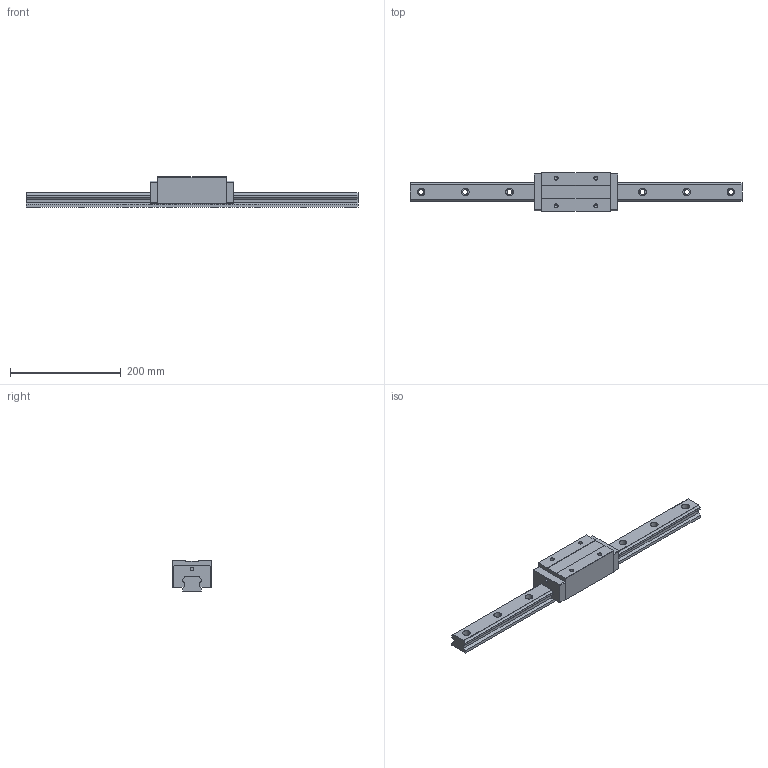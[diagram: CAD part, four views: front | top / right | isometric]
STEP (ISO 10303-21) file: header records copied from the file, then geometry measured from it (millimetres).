
FILE_DESCRIPTION (( 'STEP AP203' ), '1' );
FILE_NAME ('TRH35VE-XNC.STEP', '2024-08-16T06:45:10', ( '' ), ( '' ), 'SwSTEP 2.0', 'SolidWorks 2021', '' );
FILE_SCHEMA (( 'CONFIG_CONTROL_DESIGN' ));
Length unit declared in the file: millimetre
Products named in the file (1): TRH35VE-XNC
Bounding box: 600 x 70 x 55 mm (x, y, z)
Volume: 846025.3 mm3; surface area: 126633.3 mm2
Topology: 1 solids, 1 shells, 170 faces, 464 edges, 300 vertices
Faces by surface type: cylinder 80, plane 74, cone 16
Entity records: 5465 total; most frequent: DIRECTION 966, CARTESIAN_POINT 927, ORIENTED_EDGE 912, EDGE_CURVE 456, AXIS2_PLACEMENT_3D 339, VERTEX_POINT 300, VECTOR 288, LINE 288
